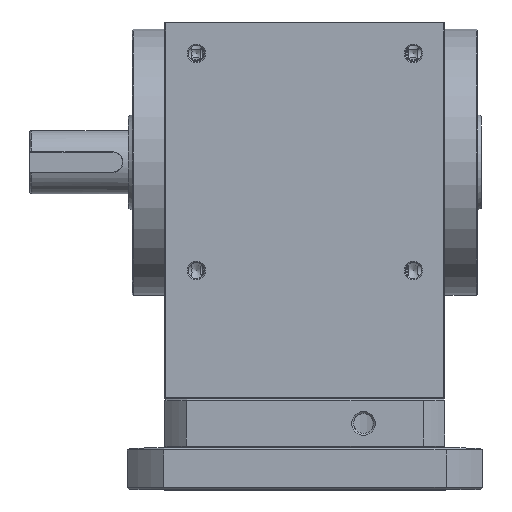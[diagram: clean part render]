
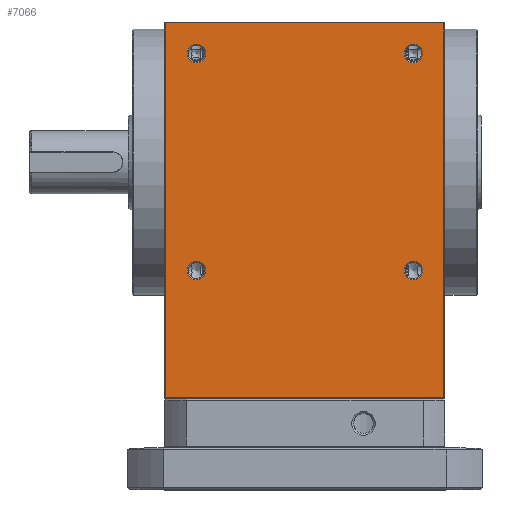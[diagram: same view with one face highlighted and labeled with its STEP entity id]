
A CAD part, top view. The second image highlights one B-rep face of the part: STEP entity #7066.
In plain terms, the highlighted planar face has unit normal (0, 0, 1).
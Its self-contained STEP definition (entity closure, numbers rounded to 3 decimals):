
#4020=CARTESIAN_POINT('',(-50.312,55.,71.0));
#4021=VERTEX_POINT('',#4020);
#4022=CARTESIAN_POINT('',(-55.,55.,71.0));
#4023=DIRECTION('',(0.0,0.0,1.0));
#4024=DIRECTION('',(-1.0,0.0,0.0));
#4025=AXIS2_PLACEMENT_3D('',#4022,#4023,#4024);
#4026=CIRCLE('',#4025,4.688);
#4027=EDGE_CURVE('',#4021,#4021,#4026,.T.);
#4069=CARTESIAN_POINT('',(-50.312,-55.0,71.0));
#4070=VERTEX_POINT('',#4069);
#4071=CARTESIAN_POINT('',(-55.,-55.0,71.0));
#4072=DIRECTION('',(0.0,0.0,1.0));
#4073=DIRECTION('',(-1.0,0.0,0.0));
#4074=AXIS2_PLACEMENT_3D('',#4071,#4072,#4073);
#4075=CIRCLE('',#4074,4.688);
#4076=EDGE_CURVE('',#4070,#4070,#4075,.T.);
#6966=CARTESIAN_POINT('',(50.312,55.,71.0));
#6967=VERTEX_POINT('',#6966);
#6968=CARTESIAN_POINT('',(55.0,55.,71.0));
#6969=DIRECTION('',(0.0,0.0,1.0));
#6970=DIRECTION('',(1.0,0.0,0.0));
#6971=AXIS2_PLACEMENT_3D('',#6968,#6969,#6970);
#6972=CIRCLE('',#6971,4.688);
#6973=EDGE_CURVE('',#6967,#6967,#6972,.T.);
#7007=CARTESIAN_POINT('',(0.,0.,71.0));
#7008=DIRECTION('',(0.0,0.0,1.0));
#7009=DIRECTION('',(1.0,0.0,0.0));
#7010=AXIS2_PLACEMENT_3D('',#7007,#7008,#7009);
#7011=PLANE('',#7010);
#7012=CARTESIAN_POINT('',(70.5,-119.5,71.0));
#7013=VERTEX_POINT('',#7012);
#7014=CARTESIAN_POINT('',(-70.5,-119.5,71.0));
#7015=VERTEX_POINT('',#7014);
#7016=CARTESIAN_POINT('',(70.5,-119.5,71.0));
#7017=DIRECTION('',(-1.0,0.0,0.0));
#7018=VECTOR('',#7017,141.0);
#7019=LINE('',#7016,#7018);
#7020=EDGE_CURVE('',#7013,#7015,#7019,.T.);
#7021=ORIENTED_EDGE('',*,*,#7020,.F.);
#7022=CARTESIAN_POINT('',(70.5,70.5,71.0));
#7023=VERTEX_POINT('',#7022);
#7024=CARTESIAN_POINT('',(70.5,70.5,71.0));
#7025=DIRECTION('',(0.0,-1.0,0.0));
#7026=VECTOR('',#7025,190.0);
#7027=LINE('',#7024,#7026);
#7028=EDGE_CURVE('',#7023,#7013,#7027,.T.);
#7029=ORIENTED_EDGE('',*,*,#7028,.F.);
#7030=CARTESIAN_POINT('',(-70.5,70.5,71.0));
#7031=VERTEX_POINT('',#7030);
#7032=CARTESIAN_POINT('',(-70.5,70.5,71.0));
#7033=DIRECTION('',(1.0,0.0,0.0));
#7034=VECTOR('',#7033,141.0);
#7035=LINE('',#7032,#7034);
#7036=EDGE_CURVE('',#7031,#7023,#7035,.T.);
#7037=ORIENTED_EDGE('',*,*,#7036,.F.);
#7038=CARTESIAN_POINT('',(-70.5,70.5,71.0));
#7039=DIRECTION('',(0.0,-1.0,0.0));
#7040=VECTOR('',#7039,190.0);
#7041=LINE('',#7038,#7040);
#7042=EDGE_CURVE('',#7031,#7015,#7041,.T.);
#7043=ORIENTED_EDGE('',*,*,#7042,.T.);
#7044=EDGE_LOOP('',(#7021,#7029,#7037,#7043));
#7045=FACE_OUTER_BOUND('',#7044,.T.);
#7046=ORIENTED_EDGE('',*,*,#6973,.F.);
#7047=EDGE_LOOP('',(#7046));
#7048=FACE_BOUND('',#7047,.T.);
#7049=ORIENTED_EDGE('',*,*,#4027,.F.);
#7050=EDGE_LOOP('',(#7049));
#7051=FACE_BOUND('',#7050,.T.);
#7052=ORIENTED_EDGE('',*,*,#4076,.F.);
#7053=EDGE_LOOP('',(#7052));
#7054=FACE_BOUND('',#7053,.T.);
#7055=CARTESIAN_POINT('',(50.312,-55.,71.0));
#7056=VERTEX_POINT('',#7055);
#7057=CARTESIAN_POINT('',(55.,-55.,71.0));
#7058=DIRECTION('',(0.0,0.0,1.0));
#7059=DIRECTION('',(1.0,0.0,0.0));
#7060=AXIS2_PLACEMENT_3D('',#7057,#7058,#7059);
#7061=CIRCLE('',#7060,4.688);
#7062=EDGE_CURVE('',#7056,#7056,#7061,.T.);
#7063=ORIENTED_EDGE('',*,*,#7062,.F.);
#7064=EDGE_LOOP('',(#7063));
#7065=FACE_BOUND('',#7064,.T.);
#7066=ADVANCED_FACE('',(#7045,#7048,#7051,#7054,#7065),#7011,.T.);
